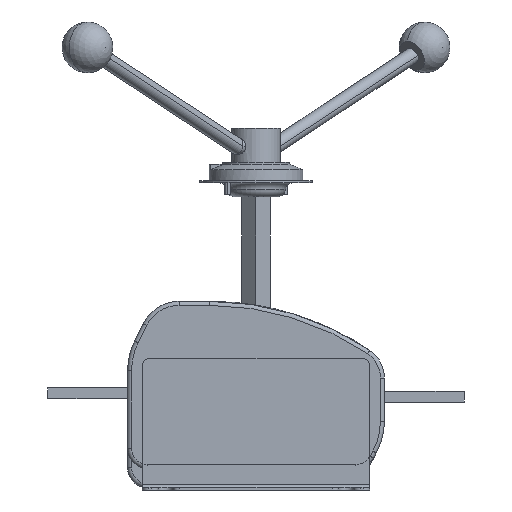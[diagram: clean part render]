
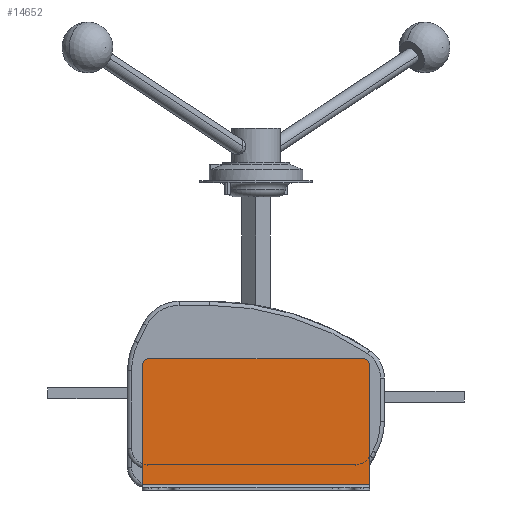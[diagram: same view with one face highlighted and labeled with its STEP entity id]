
A CAD part, left-side view. The second image highlights one B-rep face of the part: STEP entity #14652.
In plain terms, the highlighted planar face has unit normal (-1, 0, 0).
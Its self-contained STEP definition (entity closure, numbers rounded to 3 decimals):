
#435 = VECTOR ( 'NONE', #12718, 1000. ) ;
#549 = LINE ( 'NONE', #7393, #9720 ) ;
#901 = CIRCLE ( 'NONE', #4920, 5. ) ;
#1117 = CARTESIAN_POINT ( 'NONE',  ( -27., 80., 27. ) ) ;
#1388 = EDGE_CURVE ( 'NONE', #1397, #7331, #14742, .T. ) ;
#1397 = VERTEX_POINT ( 'NONE', #11888 ) ;
#1591 = DIRECTION ( 'NONE',  ( -1., 0., 0. ) ) ;
#1776 = CARTESIAN_POINT ( 'NONE',  ( -27., -85., -67. ) ) ;
#2106 = ORIENTED_EDGE ( 'NONE', *, *, #4066, .T. ) ;
#2417 = VERTEX_POINT ( 'NONE', #5261 ) ;
#2909 = VERTEX_POINT ( 'NONE', #1776 ) ;
#3084 = EDGE_CURVE ( 'NONE', #2909, #3829, #9423, .T. ) ;
#3240 = CARTESIAN_POINT ( 'NONE',  ( -27., -85., -67. ) ) ;
#3829 = VERTEX_POINT ( 'NONE', #13177 ) ;
#4066 = EDGE_CURVE ( 'NONE', #3829, #2417, #13666, .T. ) ;
#4365 = ORIENTED_EDGE ( 'NONE', *, *, #1388, .F. ) ;
#4447 = DIRECTION ( 'NONE',  ( -1., 0., 0. ) ) ;
#4920 = AXIS2_PLACEMENT_3D ( 'NONE', #9152, #4447, #6831 ) ;
#5261 = CARTESIAN_POINT ( 'NONE',  ( -27., -80., 27. ) ) ;
#5899 = FACE_OUTER_BOUND ( 'NONE', #6228, .T. ) ;
#6120 = LINE ( 'NONE', #14916, #10989 ) ;
#6228 = EDGE_LOOP ( 'NONE', ( #7521, #9370, #4365, #12412, #11929, #2106 ) ) ;
#6342 = CARTESIAN_POINT ( 'NONE',  ( -27., -80., 22. ) ) ;
#6831 = DIRECTION ( 'NONE',  ( 0., 0., 1. ) ) ;
#6925 = CARTESIAN_POINT ( 'NONE',  ( -27., -85., -67. ) ) ;
#6958 = EDGE_CURVE ( 'NONE', #2909, #1397, #6120, .T. ) ;
#7331 = VERTEX_POINT ( 'NONE', #14391 ) ;
#7393 = CARTESIAN_POINT ( 'NONE',  ( -27., -85., 27. ) ) ;
#7521 = ORIENTED_EDGE ( 'NONE', *, *, #11299, .T. ) ;
#8155 = DIRECTION ( 'NONE',  ( 0., 0., 1. ) ) ;
#8545 = DIRECTION ( 'NONE',  ( 0., 1., 0. ) ) ;
#9143 = DIRECTION ( 'NONE',  ( -1., 0., 0. ) ) ;
#9152 = CARTESIAN_POINT ( 'NONE',  ( -27., 80., 22. ) ) ;
#9370 = ORIENTED_EDGE ( 'NONE', *, *, #11469, .T. ) ;
#9423 = LINE ( 'NONE', #6925, #435 ) ;
#9720 = VECTOR ( 'NONE', #8545, 1000. ) ;
#10113 = DIRECTION ( 'NONE',  ( 0., 1., 0. ) ) ;
#10395 = PLANE ( 'NONE',  #11902 ) ;
#10589 = CARTESIAN_POINT ( 'NONE',  ( -27., 85., -67. ) ) ;
#10989 = VECTOR ( 'NONE', #10113, 1000. ) ;
#11249 = DIRECTION ( 'NONE',  ( 0., 0., 1. ) ) ;
#11299 = EDGE_CURVE ( 'NONE', #2417, #13734, #549, .T. ) ;
#11469 = EDGE_CURVE ( 'NONE', #13734, #7331, #901, .T. ) ;
#11591 = DIRECTION ( 'NONE',  ( 0., 0., 1. ) ) ;
#11888 = CARTESIAN_POINT ( 'NONE',  ( -27., 85., -67. ) ) ;
#11902 = AXIS2_PLACEMENT_3D ( 'NONE', #3240, #9143, #11591 ) ;
#11929 = ORIENTED_EDGE ( 'NONE', *, *, #3084, .T. ) ;
#12412 = ORIENTED_EDGE ( 'NONE', *, *, #6958, .F. ) ;
#12718 = DIRECTION ( 'NONE',  ( 0., 0., 1. ) ) ;
#13177 = CARTESIAN_POINT ( 'NONE',  ( -27., -85., 22. ) ) ;
#13613 = VECTOR ( 'NONE', #8155, 1000. ) ;
#13666 = CIRCLE ( 'NONE', #15178, 5. ) ;
#13734 = VERTEX_POINT ( 'NONE', #1117 ) ;
#14391 = CARTESIAN_POINT ( 'NONE',  ( -27., 85., 22. ) ) ;
#14652 = ADVANCED_FACE ( 'NONE', ( #5899 ), #10395, .T. ) ;
#14742 = LINE ( 'NONE', #10589, #13613 ) ;
#14916 = CARTESIAN_POINT ( 'NONE',  ( -27., -85., -67. ) ) ;
#15178 = AXIS2_PLACEMENT_3D ( 'NONE', #6342, #1591, #11249 ) ;
